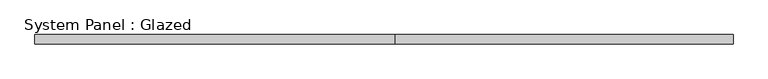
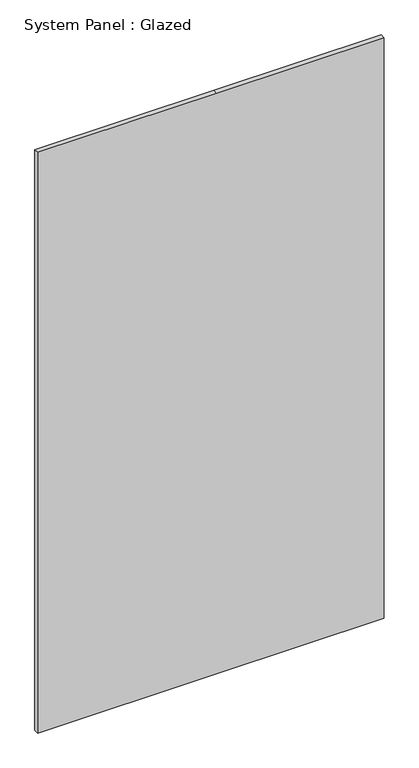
"""IFC4 building model written with IfcOpenShell, lengths in millimetres: plate geometry, System Panel : Glazed."""

from ifc_helpers import new_model, si_unit, frame, origin, place, context, project, spatial, polyline, outline, extrude, source, transform, mapped, element, save


def system_panel_glazed_87766429(model_context):
    return source(origin(), model_context, "Body", "SweptSolid", [
        extrude(outline(polyline([(0.0, -971.55), (0.0, 31.75), (0.0, 971.55), (3437.9973635, 971.55), (3437.9973635, 31.75), (3437.9973635, -971.55), (0.0, -971.55)])), frame((0.0, -44.45, 0.0), z_axis=(0.0, 1.0, 0.0), x_axis=(0.0, 0.0, 1.0)), (0.0, 0.0, 1.0), 25.4),
    ])


if __name__ == "__main__":
    model = new_model("IFC4")
    model_context = context("Model", 3, world=origin())
    ifc_project = project(units=[si_unit("LENGTHUNIT", "METRE", prefix="MILLI")], contexts=[model_context])
    site = spatial("IfcSite", under=ifc_project)
    building = spatial("IfcBuilding", under=site)
    placement = place(None, origin())
    system_panel_glazed_shape = system_panel_glazed_87766429(model_context)
    element("IfcPlate", 1, ObjectType="System Panel : Glazed", at=placement, inside=building, context=model_context, shape_type="MappedRepresentation", body=[
        mapped(system_panel_glazed_shape, transform((0.0, 0.0, 0.0), x_axis=(1.0, 0.0, 0.0), y_axis=(0.0, 1.0, 0.0), z_axis=(0.0, 0.0, 1.0))),
    ])
    save(model, "model.ifc")
